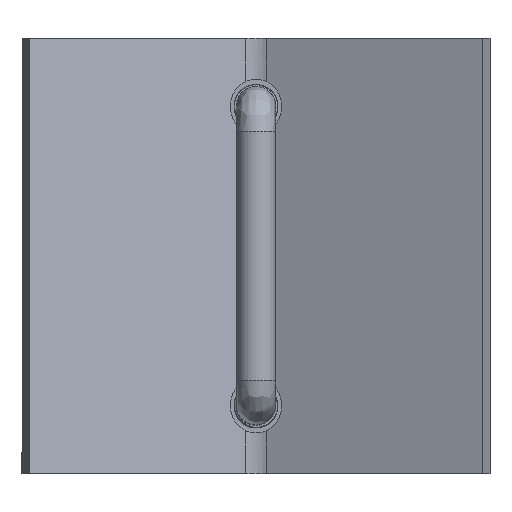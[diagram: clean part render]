
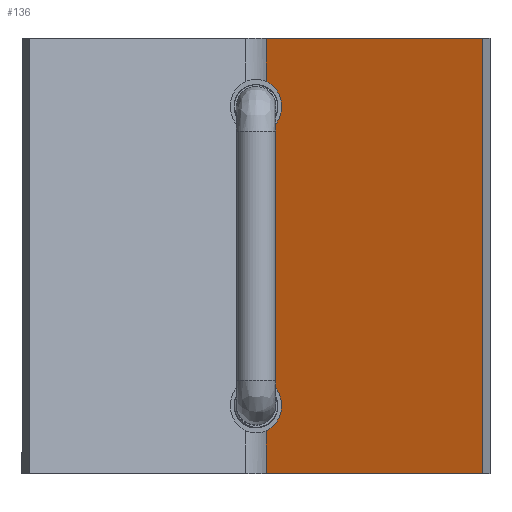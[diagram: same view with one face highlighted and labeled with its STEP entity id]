
A CAD part, top view. The second image highlights one B-rep face of the part: STEP entity #136.
In plain terms, the highlighted planar face has unit normal (-0.383, 0, 0.924).
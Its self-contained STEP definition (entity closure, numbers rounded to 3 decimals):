
#136=ADVANCED_FACE('',(#266),#2006,.T.);
#266=FACE_OUTER_BOUND('',#398,.T.);
#398=EDGE_LOOP('',(#957,#958,#959,#960,#961,#962,#963,#964));
#957=ORIENTED_EDGE('',*,*,#1358,.F.);
#958=ORIENTED_EDGE('',*,*,#1357,.F.);
#959=ORIENTED_EDGE('',*,*,#1360,.T.);
#960=ORIENTED_EDGE('',*,*,#1359,.T.);
#961=ORIENTED_EDGE('',*,*,#1367,.F.);
#962=ORIENTED_EDGE('',*,*,#1407,.F.);
#963=ORIENTED_EDGE('',*,*,#1368,.F.);
#964=ORIENTED_EDGE('',*,*,#1396,.F.);
#1357=EDGE_CURVE('',#1921,#1922,#1721,.T.);
#1358=EDGE_CURVE('',#1922,#1929,#1722,.T.);
#1359=EDGE_CURVE('',#1924,#1923,#1723,.T.);
#1360=EDGE_CURVE('',#1921,#1924,#1724,.T.);
#1367=EDGE_CURVE('',#1932,#1923,#1728,.T.);
#1368=EDGE_CURVE('',#1930,#1931,#1729,.T.);
#1396=EDGE_CURVE('',#1929,#1930,#1597,.T.);
#1407=EDGE_CURVE('',#1931,#1932,#1604,.T.);
#1597=(
BOUNDED_CURVE()
B_SPLINE_CURVE(2,(#45910,#45911,#45912,#45913,#45914),.UNSPECIFIED.,.F.,
 .F.)
B_SPLINE_CURVE_WITH_KNOTS((3,2,3),(25.525,31.362,37.198),
 .UNSPECIFIED.)
CURVE()
GEOMETRIC_REPRESENTATION_ITEM()
RATIONAL_B_SPLINE_CURVE((1.,0.834,1.,0.834,1.))
REPRESENTATION_ITEM('')
);
#1604=(
BOUNDED_CURVE()
B_SPLINE_CURVE(2,(#45952,#45953,#45954,#45955,#45956),.UNSPECIFIED.,.F.,
 .F.)
B_SPLINE_CURVE_WITH_KNOTS((3,2,3),(17.617,23.453,29.289),
 .UNSPECIFIED.)
CURVE()
GEOMETRIC_REPRESENTATION_ITEM()
RATIONAL_B_SPLINE_CURVE((1.,0.834,1.,0.834,1.))
REPRESENTATION_ITEM('')
);
#1721=B_SPLINE_CURVE_WITH_KNOTS('',1,(#45824,#45825),.UNSPECIFIED.,.F.,
 .F.,(2,2),(340.,383.037),.UNSPECIFIED.);
#1722=B_SPLINE_CURVE_WITH_KNOTS('',1,(#45826,#45827),.UNSPECIFIED.,.F.,
 .F.,(2,2),(0.,7.902),.UNSPECIFIED.);
#1723=B_SPLINE_CURVE_WITH_KNOTS('',1,(#45828,#45829),.UNSPECIFIED.,.F.,
 .F.,(2,2),(340.,383.037),.UNSPECIFIED.);
#1724=B_SPLINE_CURVE_WITH_KNOTS('',1,(#45830,#45831),.UNSPECIFIED.,.F.,
 .F.,(2,2),(0.,80.),.UNSPECIFIED.);
#1728=B_SPLINE_CURVE_WITH_KNOTS('',1,(#45846,#45847),.UNSPECIFIED.,.F.,
 .F.,(2,2),(72.098,80.),.UNSPECIFIED.);
#1729=B_SPLINE_CURVE_WITH_KNOTS('',1,(#45848,#45849),.UNSPECIFIED.,.F.,
 .F.,(2,2),(17.098,62.902),.UNSPECIFIED.);
#1921=VERTEX_POINT('',#45792);
#1922=VERTEX_POINT('',#45793);
#1923=VERTEX_POINT('',#45794);
#1924=VERTEX_POINT('',#45795);
#1929=VERTEX_POINT('',#45800);
#1930=VERTEX_POINT('',#45801);
#1931=VERTEX_POINT('',#45802);
#1932=VERTEX_POINT('',#45803);
#2006=PLANE('',#2307);
#2307=AXIS2_PLACEMENT_3D('',#45728,#2382,$);
#2382=DIRECTION('',(-0.383,0.,0.924));
#45728=CARTESIAN_POINT('',(41.674,-40.,16.85));
#45792=CARTESIAN_POINT('',(41.674,-40.,16.85));
#45793=CARTESIAN_POINT('',(1.913,-40.,0.381));
#45794=CARTESIAN_POINT('',(1.913,40.,0.381));
#45795=CARTESIAN_POINT('',(41.674,40.,16.85));
#45800=CARTESIAN_POINT('',(1.913,-32.098,0.381));
#45801=CARTESIAN_POINT('',(1.913,-22.902,0.381));
#45802=CARTESIAN_POINT('',(1.913,22.902,0.381));
#45803=CARTESIAN_POINT('',(1.913,32.098,0.381));
#45824=CARTESIAN_POINT('',(41.674,-40.,16.85));
#45825=CARTESIAN_POINT('',(1.913,-40.,0.381));
#45826=CARTESIAN_POINT('',(1.913,-40.,0.381));
#45827=CARTESIAN_POINT('',(1.913,-32.098,0.381));
#45828=CARTESIAN_POINT('',(41.674,40.,16.85));
#45829=CARTESIAN_POINT('',(1.913,40.,0.381));
#45830=CARTESIAN_POINT('',(41.674,-40.,16.85));
#45831=CARTESIAN_POINT('',(41.674,40.,16.85));
#45846=CARTESIAN_POINT('',(1.913,32.098,0.381));
#45847=CARTESIAN_POINT('',(1.913,40.,0.381));
#45848=CARTESIAN_POINT('',(1.913,-22.902,0.381));
#45849=CARTESIAN_POINT('',(1.913,22.902,0.381));
#45910=CARTESIAN_POINT('',(1.913,-32.098,0.381));
#45911=CARTESIAN_POINT('',(4.719,-30.802,1.543));
#45912=CARTESIAN_POINT('',(4.719,-27.5,1.543));
#45913=CARTESIAN_POINT('',(4.719,-24.198,1.543));
#45914=CARTESIAN_POINT('',(1.913,-22.902,0.381));
#45952=CARTESIAN_POINT('',(1.913,22.902,0.381));
#45953=CARTESIAN_POINT('',(4.719,24.198,1.543));
#45954=CARTESIAN_POINT('',(4.719,27.5,1.543));
#45955=CARTESIAN_POINT('',(4.719,30.802,1.543));
#45956=CARTESIAN_POINT('',(1.913,32.098,0.381));
